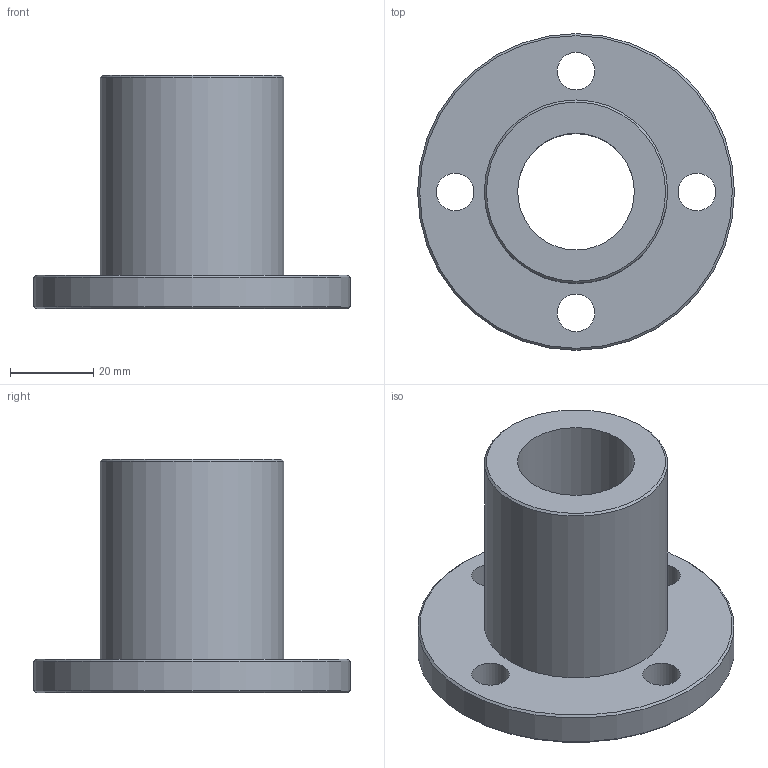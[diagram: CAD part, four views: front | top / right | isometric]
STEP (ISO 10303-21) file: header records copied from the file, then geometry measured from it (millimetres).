
FILE_DESCRIPTION(('STEP AP203'),'1');
FILE_NAME('//192.168.1.1/share/s-4 技術開発/s-4-4_CAD/s-4-4-3_見直し済み/018 修正済み/TMFON/TMFON_TOP/TMFON-28R.step','2022-02-08T05:35:47',(' '),(' '),'Spatial InterOp 3D',' ',' ');
FILE_SCHEMA(('CONFIG_CONTROL_DESIGN'));
Length unit declared in the file: millimetre
Products named in the file (1): 1
Bounding box: 76 x 76 x 56 mm (x, y, z)
Volume: 72682.7 mm3; surface area: 21527.1 mm2
Topology: 1 solids, 1 shells, 13 faces, 27 edges, 17 vertices
Faces by surface type: cylinder 7, plane 3, cone 3
Full cylindrical faces by diameter (mm): 9 x4, 28 x1, 44 x1, 76 x1
Entity records: 368 total; most frequent: DIRECTION 62, CARTESIAN_POINT 48, EDGE_LOOP 34, ORIENTED_EDGE 34, AXIS2_PLACEMENT_3D 31, FACE_OUTER_BOUND 20, EDGE_CURVE 17, VERTEX_POINT 17
